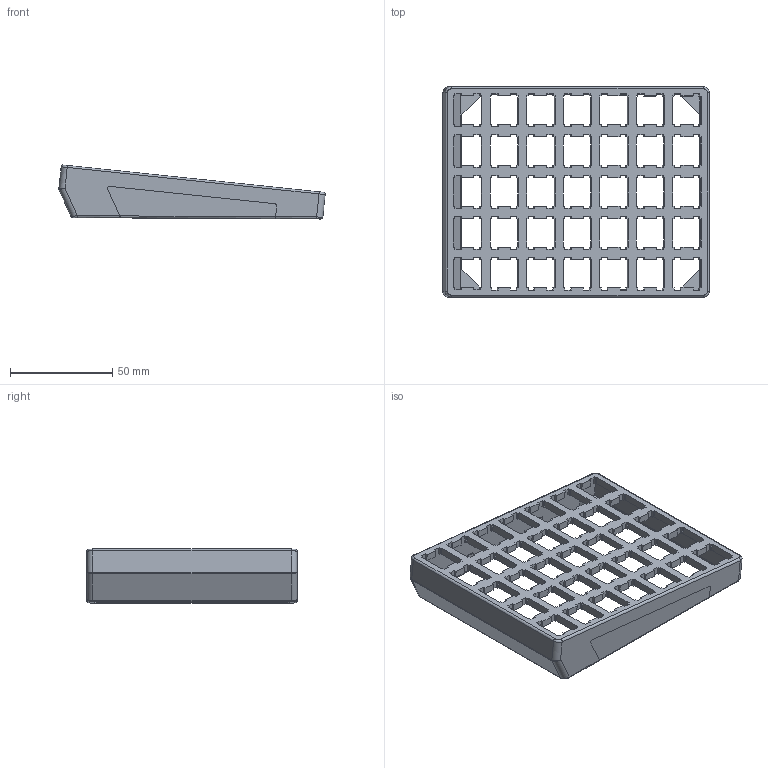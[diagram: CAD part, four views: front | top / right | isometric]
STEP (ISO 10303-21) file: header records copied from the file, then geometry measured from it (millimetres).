
FILE_DESCRIPTION(/* description */ (''),/* implementation_level */ '2;1');
FILE_NAME(/* name */ 'C:/Users/alfreddevries/Documents/3D-Prints/Lube Station/Switch Module.step',/* time_stamp */ '2021-02-05T22:56:03+01:00',/* author */ (''),/* organization */ (''),/* preprocessor_version */ 'ST-DEVELOPER v18.1',/* originating_system */ 'Autodesk Translation Framework v9.7.1.1290',/* authorisation */ '');
FILE_SCHEMA (('AUTOMOTIVE_DESIGN { 1 0 10303 214 3 1 1 }'));
Length unit declared in the file: millimetre
Products named in the file (3): Custom Lube Station; Switch Module; Side Accents
Assembly tree (2 placements, depth 2):
  Custom Lube Station
    Switch Module
    Side Accents
Bounding box: 130.42 x 103 x 26.44 mm (x, y, z)
Volume: 46538.4 mm3; surface area: 40384.4 mm2
Topology: 3 solids, 3 shells, 808 faces, 2401 edges, 1592 vertices
Faces by surface type: plane 767, cylinder 31, bspline 6, torus 4
Full cylindrical faces by diameter (mm): 6.3 x4
Entity records: 26922 total; most frequent: CARTESIAN_POINT 4938, ORIENTED_EDGE 4798, DIRECTION 4083, EDGE_CURVE 2399, LINE 2329, VECTOR 2329, VERTEX_POINT 1592, EDGE_LOOP 881
